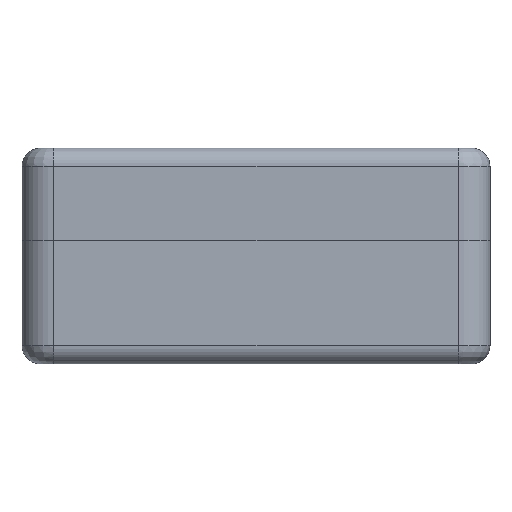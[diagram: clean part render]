
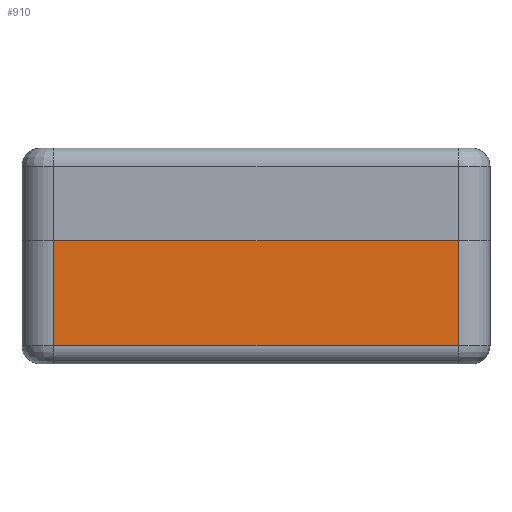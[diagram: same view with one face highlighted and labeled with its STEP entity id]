
A CAD part, left-side view. The second image highlights one B-rep face of the part: STEP entity #910.
In plain terms, the highlighted planar face has unit normal (-1, 0, 0).
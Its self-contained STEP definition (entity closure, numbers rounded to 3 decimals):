
#106 = CYLINDRICAL_SURFACE('',#107,2.1);
#107 = AXIS2_PLACEMENT_3D('',#108,#109,#110);
#108 = CARTESIAN_POINT('',(0.45,-26.65,-8.02));
#109 = DIRECTION('',(0.,0.,1.));
#110 = DIRECTION('',(0.,-1.,0.));
#134 = PLANE('',#135);
#135 = AXIS2_PLACEMENT_3D('',#136,#137,#138);
#136 = CARTESIAN_POINT('',(-6.25,-33.35,0.1));
#137 = DIRECTION('',(0.,0.,1.));
#138 = DIRECTION('',(1.,0.,-0.));
#781 = CYLINDRICAL_SURFACE('',#782,2.1);
#782 = AXIS2_PLACEMENT_3D('',#783,#784,#785);
#783 = CARTESIAN_POINT('',(0.45,-0.05,-8.02));
#784 = DIRECTION('',(0.,0.,1.));
#785 = DIRECTION('',(-0.,1.,0.));
#823 = VERTEX_POINT('',#824);
#824 = CARTESIAN_POINT('',(-1.65,-0.05,-6.82));
#861 = EDGE_CURVE('',#823,#862,#864,.T.);
#862 = VERTEX_POINT('',#863);
#863 = CARTESIAN_POINT('',(-1.65,-0.05,0.1));
#864 = SURFACE_CURVE('',#865,(#869,#876),.PCURVE_S1.);
#865 = LINE('',#866,#867);
#866 = CARTESIAN_POINT('',(-1.65,-0.05,-8.02));
#867 = VECTOR('',#868,1.);
#868 = DIRECTION('',(0.,0.,1.));
#869 = PCURVE('',#781,#870);
#870 = DEFINITIONAL_REPRESENTATION('',(#871),#875);
#871 = LINE('',#872,#873);
#872 = CARTESIAN_POINT('',(1.571,0.));
#873 = VECTOR('',#874,1.);
#874 = DIRECTION('',(0.,1.));
#875 = ( GEOMETRIC_REPRESENTATION_CONTEXT(2) 
PARAMETRIC_REPRESENTATION_CONTEXT() REPRESENTATION_CONTEXT('2D SPACE',''
  ) );
#876 = PCURVE('',#877,#882);
#877 = PLANE('',#878);
#878 = AXIS2_PLACEMENT_3D('',#879,#880,#881);
#879 = CARTESIAN_POINT('',(-1.65,2.05,-8.02));
#880 = DIRECTION('',(1.,0.,-0.));
#881 = DIRECTION('',(0.,-1.,0.));
#882 = DEFINITIONAL_REPRESENTATION('',(#883),#887);
#883 = LINE('',#884,#885);
#884 = CARTESIAN_POINT('',(2.1,0.));
#885 = VECTOR('',#886,1.);
#886 = DIRECTION('',(0.,-1.));
#887 = ( GEOMETRIC_REPRESENTATION_CONTEXT(2) 
PARAMETRIC_REPRESENTATION_CONTEXT() REPRESENTATION_CONTEXT('2D SPACE',''
  ) );
#910 = ADVANCED_FACE('',(#911),#877,.F.);
#911 = FACE_BOUND('',#912,.F.);
#912 = EDGE_LOOP('',(#913,#941,#942,#965));
#913 = ORIENTED_EDGE('',*,*,#914,.F.);
#914 = EDGE_CURVE('',#823,#915,#917,.T.);
#915 = VERTEX_POINT('',#916);
#916 = CARTESIAN_POINT('',(-1.65,-26.65,-6.82));
#917 = SURFACE_CURVE('',#918,(#922,#929),.PCURVE_S1.);
#918 = LINE('',#919,#920);
#919 = CARTESIAN_POINT('',(-1.65,-0.05,-6.82));
#920 = VECTOR('',#921,1.);
#921 = DIRECTION('',(0.,-1.,0.));
#922 = PCURVE('',#877,#923);
#923 = DEFINITIONAL_REPRESENTATION('',(#924),#928);
#924 = LINE('',#925,#926);
#925 = CARTESIAN_POINT('',(2.1,-1.2));
#926 = VECTOR('',#927,1.);
#927 = DIRECTION('',(1.,0.));
#928 = ( GEOMETRIC_REPRESENTATION_CONTEXT(2) 
PARAMETRIC_REPRESENTATION_CONTEXT() REPRESENTATION_CONTEXT('2D SPACE',''
  ) );
#929 = PCURVE('',#930,#935);
#930 = CYLINDRICAL_SURFACE('',#931,1.2);
#931 = AXIS2_PLACEMENT_3D('',#932,#933,#934);
#932 = CARTESIAN_POINT('',(-0.45,-0.05,-6.82));
#933 = DIRECTION('',(0.,-1.,0.));
#934 = DIRECTION('',(-1.,0.,0.));
#935 = DEFINITIONAL_REPRESENTATION('',(#936),#940);
#936 = LINE('',#937,#938);
#937 = CARTESIAN_POINT('',(0.,0.));
#938 = VECTOR('',#939,1.);
#939 = DIRECTION('',(0.,1.));
#940 = ( GEOMETRIC_REPRESENTATION_CONTEXT(2) 
PARAMETRIC_REPRESENTATION_CONTEXT() REPRESENTATION_CONTEXT('2D SPACE',''
  ) );
#941 = ORIENTED_EDGE('',*,*,#861,.T.);
#942 = ORIENTED_EDGE('',*,*,#943,.T.);
#943 = EDGE_CURVE('',#862,#944,#946,.T.);
#944 = VERTEX_POINT('',#945);
#945 = CARTESIAN_POINT('',(-1.65,-26.65,0.1));
#946 = SURFACE_CURVE('',#947,(#951,#958),.PCURVE_S1.);
#947 = LINE('',#948,#949);
#948 = CARTESIAN_POINT('',(-1.65,-15.65,0.1));
#949 = VECTOR('',#950,1.);
#950 = DIRECTION('',(0.,-1.,0.));
#951 = PCURVE('',#877,#952);
#952 = DEFINITIONAL_REPRESENTATION('',(#953),#957);
#953 = LINE('',#954,#955);
#954 = CARTESIAN_POINT('',(17.7,-8.12));
#955 = VECTOR('',#956,1.);
#956 = DIRECTION('',(1.,0.));
#957 = ( GEOMETRIC_REPRESENTATION_CONTEXT(2) 
PARAMETRIC_REPRESENTATION_CONTEXT() REPRESENTATION_CONTEXT('2D SPACE',''
  ) );
#958 = PCURVE('',#134,#959);
#959 = DEFINITIONAL_REPRESENTATION('',(#960),#964);
#960 = LINE('',#961,#962);
#961 = CARTESIAN_POINT('',(4.6,17.7));
#962 = VECTOR('',#963,1.);
#963 = DIRECTION('',(0.,-1.));
#964 = ( GEOMETRIC_REPRESENTATION_CONTEXT(2) 
PARAMETRIC_REPRESENTATION_CONTEXT() REPRESENTATION_CONTEXT('2D SPACE',''
  ) );
#965 = ORIENTED_EDGE('',*,*,#966,.F.);
#966 = EDGE_CURVE('',#915,#944,#967,.T.);
#967 = SURFACE_CURVE('',#968,(#972,#979),.PCURVE_S1.);
#968 = LINE('',#969,#970);
#969 = CARTESIAN_POINT('',(-1.65,-26.65,-8.02));
#970 = VECTOR('',#971,1.);
#971 = DIRECTION('',(0.,0.,1.));
#972 = PCURVE('',#877,#973);
#973 = DEFINITIONAL_REPRESENTATION('',(#974),#978);
#974 = LINE('',#975,#976);
#975 = CARTESIAN_POINT('',(28.7,0.));
#976 = VECTOR('',#977,1.);
#977 = DIRECTION('',(0.,-1.));
#978 = ( GEOMETRIC_REPRESENTATION_CONTEXT(2) 
PARAMETRIC_REPRESENTATION_CONTEXT() REPRESENTATION_CONTEXT('2D SPACE',''
  ) );
#979 = PCURVE('',#106,#980);
#980 = DEFINITIONAL_REPRESENTATION('',(#981),#985);
#981 = LINE('',#982,#983);
#982 = CARTESIAN_POINT('',(4.712,0.));
#983 = VECTOR('',#984,1.);
#984 = DIRECTION('',(-0.,1.));
#985 = ( GEOMETRIC_REPRESENTATION_CONTEXT(2) 
PARAMETRIC_REPRESENTATION_CONTEXT() REPRESENTATION_CONTEXT('2D SPACE',''
  ) );
